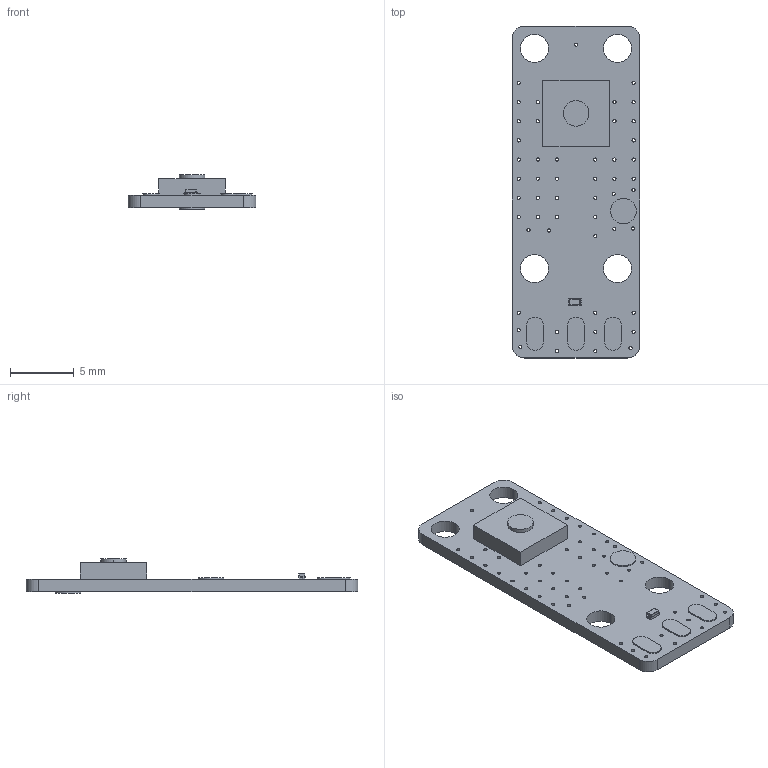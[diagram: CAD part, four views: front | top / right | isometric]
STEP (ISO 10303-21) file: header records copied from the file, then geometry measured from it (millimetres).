
FILE_DESCRIPTION (( 'STEP AP203' ), '1' );
FILE_NAME ('偌瑩啣.STEP', '2025-04-18T02:40:23', ( 'BBL' ), ( 'BBL' ), 'SwSTEP 2.0', 'SolidWorks 2023', '' );
FILE_SCHEMA (( 'CONFIG_CONTROL_DESIGN' ));
Length unit declared in the file: millimetre
Products named in the file (1): 按键板
Bounding box: 10 x 26 x 2.7 mm (x, y, z)
Surface area: 752.9 mm2 (no closed solid volume)
Topology: 0 solids, 9 shells, 217 faces, 660 edges, 386 vertices
Faces by surface type: cylinder 155, plane 58, sphere 4
Entity records: 7621 total; most frequent: DIRECTION 1406, CARTESIAN_POINT 1260, ORIENTED_EDGE 1170, EDGE_CURVE 656, AXIS2_PLACEMENT_3D 532, VERTEX_POINT 386, EDGE_LOOP 345, VECTOR 342
